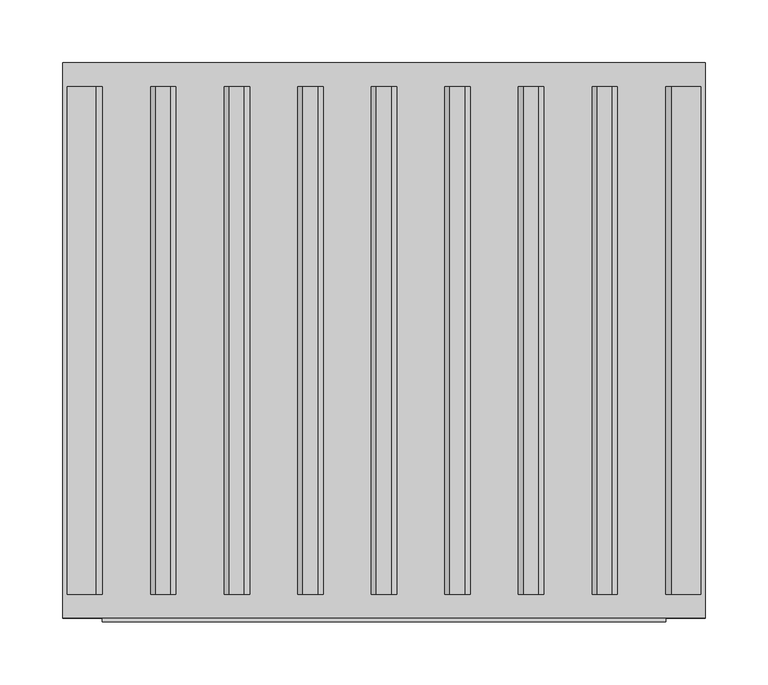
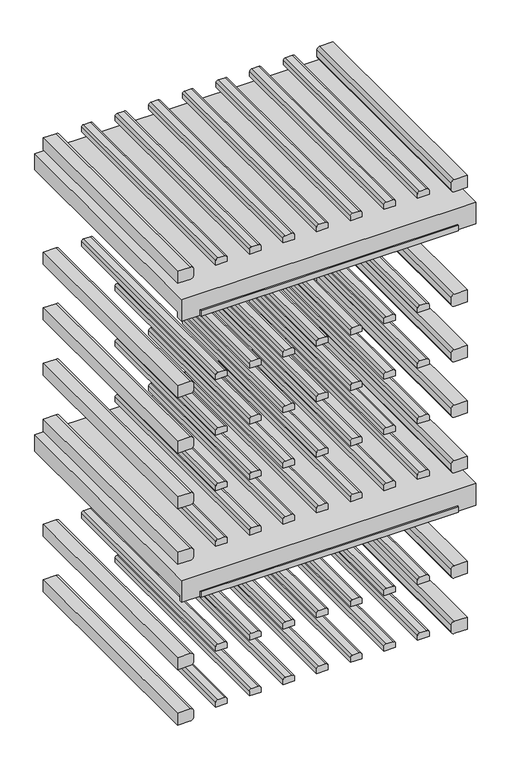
"""IFC4 building model written with IfcOpenShell, lengths in millimetres: proxy geometry, 11503640_USA_KWT2612SF : 36261215_USA_11503640_KWT2612SF."""

from ifc_helpers import new_model, si_unit, point, frame, frame_2d, origin, place, context, project, spatial, polyline, circle_curve, trimmed, segment, composite_curve, outline, extrude, faceted_brep, source, transform, mapped, element, save


def specialty_equipment_2373a430(model_context):
    return source(origin(), model_context, "Body", "SolidModel", [
        extrude(outline(composite_curve([segment(polyline([(782.0, -252.0), (760.0, -252.0), (760.0, -229.0)]), True, "CONTINUOUS"), segment(trimmed(circle_curve(frame_2d((765.0, -229.0)), 5.0), [point((760.0, -229.0))], [point((765.0, -224.0))], False, "CARTESIAN"), True, "CONTINUOUS"), segment(polyline([(765.0, -224.0), (777.0, -224.0)]), True, "CONTINUOUS"), segment(trimmed(circle_curve(frame_2d((777.0, -229.0)), 5.0), [point((777.0, -224.0))], [point((782.0, -229.0))], False, "CARTESIAN"), True, "CONTINUOUS"), segment(polyline([(782.0, -229.0), (782.0, -252.0)]), True, "CONTINUOUS")], self_intersect=False)), frame((0.0, 90.0, 0.0), z_axis=(0.0, 1.0, 0.0), x_axis=(0.0, 0.0, 1.0)), (0.0, 0.0, 1.0), 404.0),
        extrude(outline(composite_curve([segment(polyline([(778.0, -185.5), (770.039218, -185.5), (770.039218, -165.5), (778.0, -165.5)]), True, "CONTINUOUS"), segment(trimmed(circle_curve(frame_2d((778.0, -169.5)), 4.0), [point((778.0, -165.5))], [point((782.0, -169.5))], False, "CARTESIAN"), True, "CONTINUOUS"), segment(polyline([(782.0, -169.5), (782.0, -181.5)]), True, "CONTINUOUS"), segment(trimmed(circle_curve(frame_2d((778.0, -181.5)), 4.0), [point((782.0, -181.5))], [point((778.0, -185.5))], False, "CARTESIAN"), True, "CONTINUOUS")], self_intersect=False)), frame((0.0, 90.0, 0.0), z_axis=(0.0, 1.0, 0.0), x_axis=(0.0, 0.0, 1.0)), (0.0, 0.0, 1.0), 404.0),
        extrude(outline(composite_curve([segment(polyline([(782.0, 252.0), (782.0, 229.0)]), True, "CONTINUOUS"), segment(trimmed(circle_curve(frame_2d((777.0, 229.0)), 5.0), [point((782.0, 229.0))], [point((777.0, 224.0))], False, "CARTESIAN"), True, "CONTINUOUS"), segment(polyline([(777.0, 224.0), (765.0, 224.0)]), True, "CONTINUOUS"), segment(trimmed(circle_curve(frame_2d((765.0, 229.0)), 5.0), [point((765.0, 224.0))], [point((760.0, 229.0))], False, "CARTESIAN"), True, "CONTINUOUS"), segment(polyline([(760.0, 229.0), (760.0, 252.0), (782.0, 252.0)]), True, "CONTINUOUS")], self_intersect=False)), frame((0.0, 90.0, 0.0), z_axis=(0.0, 1.0, 0.0), x_axis=(0.0, 0.0, 1.0)), (0.0, 0.0, 1.0), 404.0),
        extrude(outline(composite_curve([segment(polyline([(778.0, -127.0), (770.039218, -127.0), (770.039218, -107.0), (778.0, -107.0)]), True, "CONTINUOUS"), segment(trimmed(circle_curve(frame_2d((778.0, -111.0)), 4.0), [point((778.0, -107.0))], [point((782.0, -111.0))], False, "CARTESIAN"), True, "CONTINUOUS"), segment(polyline([(782.0, -111.0), (782.0, -123.0)]), True, "CONTINUOUS"), segment(trimmed(circle_curve(frame_2d((778.0, -123.0)), 4.0), [point((782.0, -123.0))], [point((778.0, -127.0))], False, "CARTESIAN"), True, "CONTINUOUS")], self_intersect=False)), frame((0.0, 90.0, 0.0), z_axis=(0.0, 1.0, 0.0), x_axis=(0.0, 0.0, 1.0)), (0.0, 0.0, 1.0), 404.0),
        extrude(outline(composite_curve([segment(polyline([(778.0, -68.5), (770.039218, -68.5), (770.039218, -48.5), (778.0, -48.5)]), True, "CONTINUOUS"), segment(trimmed(circle_curve(frame_2d((778.0, -52.5)), 4.0), [point((778.0, -48.5))], [point((782.0, -52.5))], False, "CARTESIAN"), True, "CONTINUOUS"), segment(polyline([(782.0, -52.5), (782.0, -64.5)]), True, "CONTINUOUS"), segment(trimmed(circle_curve(frame_2d((778.0, -64.5)), 4.0), [point((782.0, -64.5))], [point((778.0, -68.5))], False, "CARTESIAN"), True, "CONTINUOUS")], self_intersect=False)), frame((0.0, 90.0, 0.0), z_axis=(0.0, 1.0, 0.0), x_axis=(0.0, 0.0, 1.0)), (0.0, 0.0, 1.0), 404.0),
        extrude(outline(composite_curve([segment(polyline([(778.0, -10.0), (770.039218, -10.0), (770.039218, 10.0), (778.0, 10.0)]), True, "CONTINUOUS"), segment(trimmed(circle_curve(frame_2d((778.0, 6.0)), 4.0), [point((778.0, 10.0))], [point((782.0, 6.0))], False, "CARTESIAN"), True, "CONTINUOUS"), segment(polyline([(782.0, 6.0), (782.0, -6.0)]), True, "CONTINUOUS"), segment(trimmed(circle_curve(frame_2d((778.0, -6.0)), 4.0), [point((782.0, -6.0))], [point((778.0, -10.0))], False, "CARTESIAN"), True, "CONTINUOUS")], self_intersect=False)), frame((0.0, 90.0, 0.0), z_axis=(0.0, 1.0, 0.0), x_axis=(0.0, 0.0, 1.0)), (0.0, 0.0, 1.0), 404.0),
        extrude(outline(composite_curve([segment(polyline([(778.0, 48.5), (770.039218, 48.5), (770.039218, 68.5), (778.0, 68.5)]), True, "CONTINUOUS"), segment(trimmed(circle_curve(frame_2d((778.0, 64.5)), 4.0), [point((778.0, 68.5))], [point((782.0, 64.5))], False, "CARTESIAN"), True, "CONTINUOUS"), segment(polyline([(782.0, 64.5), (782.0, 52.5)]), True, "CONTINUOUS"), segment(trimmed(circle_curve(frame_2d((778.0, 52.5)), 4.0), [point((782.0, 52.5))], [point((778.0, 48.5))], False, "CARTESIAN"), True, "CONTINUOUS")], self_intersect=False)), frame((0.0, 90.0, 0.0), z_axis=(0.0, 1.0, 0.0), x_axis=(0.0, 0.0, 1.0)), (0.0, 0.0, 1.0), 404.0),
        extrude(outline(composite_curve([segment(polyline([(778.0, 107.0), (770.039218, 107.0), (770.039218, 127.0), (778.0, 127.0)]), True, "CONTINUOUS"), segment(trimmed(circle_curve(frame_2d((778.0, 123.0)), 4.0), [point((778.0, 127.0))], [point((782.0, 123.0))], False, "CARTESIAN"), True, "CONTINUOUS"), segment(polyline([(782.0, 123.0), (782.0, 111.0)]), True, "CONTINUOUS"), segment(trimmed(circle_curve(frame_2d((778.0, 111.0)), 4.0), [point((782.0, 111.0))], [point((778.0, 107.0))], False, "CARTESIAN"), True, "CONTINUOUS")], self_intersect=False)), frame((0.0, 90.0, 0.0), z_axis=(0.0, 1.0, 0.0), x_axis=(0.0, 0.0, 1.0)), (0.0, 0.0, 1.0), 404.0),
        extrude(outline(composite_curve([segment(polyline([(778.0, 165.5), (770.039218, 165.5), (770.039218, 185.5), (778.0, 185.5)]), True, "CONTINUOUS"), segment(trimmed(circle_curve(frame_2d((778.0, 181.5)), 4.0), [point((778.0, 185.5))], [point((782.0, 181.5))], False, "CARTESIAN"), True, "CONTINUOUS"), segment(polyline([(782.0, 181.5), (782.0, 169.5)]), True, "CONTINUOUS"), segment(trimmed(circle_curve(frame_2d((778.0, 169.5)), 4.0), [point((782.0, 169.5))], [point((778.0, 165.5))], False, "CARTESIAN"), True, "CONTINUOUS")], self_intersect=False)), frame((0.0, 90.0, 0.0), z_axis=(0.0, 1.0, 0.0), x_axis=(0.0, 0.0, 1.0)), (0.0, 0.0, 1.0), 404.0),
        extrude(outline(composite_curve([segment(polyline([(884.0, -252.0), (862.0, -252.0), (862.0, -229.0)]), True, "CONTINUOUS"), segment(trimmed(circle_curve(frame_2d((867.0, -229.0)), 5.0), [point((862.0, -229.0))], [point((867.0, -224.0))], False, "CARTESIAN"), True, "CONTINUOUS"), segment(polyline([(867.0, -224.0), (879.0, -224.0)]), True, "CONTINUOUS"), segment(trimmed(circle_curve(frame_2d((879.0, -229.0)), 5.0), [point((879.0, -224.0))], [point((884.0, -229.0))], False, "CARTESIAN"), True, "CONTINUOUS"), segment(polyline([(884.0, -229.0), (884.0, -252.0)]), True, "CONTINUOUS")], self_intersect=False)), frame((0.0, 90.0, 0.0), z_axis=(0.0, 1.0, 0.0), x_axis=(0.0, 0.0, 1.0)), (0.0, 0.0, 1.0), 404.0),
        extrude(outline(composite_curve([segment(polyline([(880.0, -185.5), (872.039218, -185.5), (872.039218, -165.5), (880.0, -165.5)]), True, "CONTINUOUS"), segment(trimmed(circle_curve(frame_2d((880.0, -169.5)), 4.0), [point((880.0, -165.5))], [point((884.0, -169.5))], False, "CARTESIAN"), True, "CONTINUOUS"), segment(polyline([(884.0, -169.5), (884.0, -181.5)]), True, "CONTINUOUS"), segment(trimmed(circle_curve(frame_2d((880.0, -181.5)), 4.0), [point((884.0, -181.5))], [point((880.0, -185.5))], False, "CARTESIAN"), True, "CONTINUOUS")], self_intersect=False)), frame((0.0, 90.0, 0.0), z_axis=(0.0, 1.0, 0.0), x_axis=(0.0, 0.0, 1.0)), (0.0, 0.0, 1.0), 404.0),
        extrude(outline(composite_curve([segment(polyline([(884.0, 252.0), (884.0, 229.0)]), True, "CONTINUOUS"), segment(trimmed(circle_curve(frame_2d((879.0, 229.0)), 5.0), [point((884.0, 229.0))], [point((879.0, 224.0))], False, "CARTESIAN"), True, "CONTINUOUS"), segment(polyline([(879.0, 224.0), (867.0, 224.0)]), True, "CONTINUOUS"), segment(trimmed(circle_curve(frame_2d((867.0, 229.0)), 5.0), [point((867.0, 224.0))], [point((862.0, 229.0))], False, "CARTESIAN"), True, "CONTINUOUS"), segment(polyline([(862.0, 229.0), (862.0, 252.0), (884.0, 252.0)]), True, "CONTINUOUS")], self_intersect=False)), frame((0.0, 90.0, 0.0), z_axis=(0.0, 1.0, 0.0), x_axis=(0.0, 0.0, 1.0)), (0.0, 0.0, 1.0), 404.0),
        extrude(outline(composite_curve([segment(polyline([(880.0, -127.0), (872.039218, -127.0), (872.039218, -107.0), (880.0, -107.0)]), True, "CONTINUOUS"), segment(trimmed(circle_curve(frame_2d((880.0, -111.0)), 4.0), [point((880.0, -107.0))], [point((884.0, -111.0))], False, "CARTESIAN"), True, "CONTINUOUS"), segment(polyline([(884.0, -111.0), (884.0, -123.0)]), True, "CONTINUOUS"), segment(trimmed(circle_curve(frame_2d((880.0, -123.0)), 4.0), [point((884.0, -123.0))], [point((880.0, -127.0))], False, "CARTESIAN"), True, "CONTINUOUS")], self_intersect=False)), frame((0.0, 90.0, 0.0), z_axis=(0.0, 1.0, 0.0), x_axis=(0.0, 0.0, 1.0)), (0.0, 0.0, 1.0), 404.0),
        extrude(outline(composite_curve([segment(polyline([(880.0, -68.5), (872.039218, -68.5), (872.039218, -48.5), (880.0, -48.5)]), True, "CONTINUOUS"), segment(trimmed(circle_curve(frame_2d((880.0, -52.5)), 4.0), [point((880.0, -48.5))], [point((884.0, -52.5))], False, "CARTESIAN"), True, "CONTINUOUS"), segment(polyline([(884.0, -52.5), (884.0, -64.5)]), True, "CONTINUOUS"), segment(trimmed(circle_curve(frame_2d((880.0, -64.5)), 4.0), [point((884.0, -64.5))], [point((880.0, -68.5))], False, "CARTESIAN"), True, "CONTINUOUS")], self_intersect=False)), frame((0.0, 90.0, 0.0), z_axis=(0.0, 1.0, 0.0), x_axis=(0.0, 0.0, 1.0)), (0.0, 0.0, 1.0), 404.0),
        extrude(outline(composite_curve([segment(polyline([(880.0, -10.0), (872.039218, -10.0), (872.039218, 10.0), (880.0, 10.0)]), True, "CONTINUOUS"), segment(trimmed(circle_curve(frame_2d((880.0, 6.0)), 4.0), [point((880.0, 10.0))], [point((884.0, 6.0))], False, "CARTESIAN"), True, "CONTINUOUS"), segment(polyline([(884.0, 6.0), (884.0, -6.0)]), True, "CONTINUOUS"), segment(trimmed(circle_curve(frame_2d((880.0, -6.0)), 4.0), [point((884.0, -6.0))], [point((880.0, -10.0))], False, "CARTESIAN"), True, "CONTINUOUS")], self_intersect=False)), frame((0.0, 90.0, 0.0), z_axis=(0.0, 1.0, 0.0), x_axis=(0.0, 0.0, 1.0)), (0.0, 0.0, 1.0), 404.0),
        extrude(outline(composite_curve([segment(polyline([(880.0, 48.5), (872.039218, 48.5), (872.039218, 68.5), (880.0, 68.5)]), True, "CONTINUOUS"), segment(trimmed(circle_curve(frame_2d((880.0, 64.5)), 4.0), [point((880.0, 68.5))], [point((884.0, 64.5))], False, "CARTESIAN"), True, "CONTINUOUS"), segment(polyline([(884.0, 64.5), (884.0, 52.5)]), True, "CONTINUOUS"), segment(trimmed(circle_curve(frame_2d((880.0, 52.5)), 4.0), [point((884.0, 52.5))], [point((880.0, 48.5))], False, "CARTESIAN"), True, "CONTINUOUS")], self_intersect=False)), frame((0.0, 90.0, 0.0), z_axis=(0.0, 1.0, 0.0), x_axis=(0.0, 0.0, 1.0)), (0.0, 0.0, 1.0), 404.0),
        extrude(outline(composite_curve([segment(polyline([(880.0, 107.0), (872.039218, 107.0), (872.039218, 127.0), (880.0, 127.0)]), True, "CONTINUOUS"), segment(trimmed(circle_curve(frame_2d((880.0, 123.0)), 4.0), [point((880.0, 127.0))], [point((884.0, 123.0))], False, "CARTESIAN"), True, "CONTINUOUS"), segment(polyline([(884.0, 123.0), (884.0, 111.0)]), True, "CONTINUOUS"), segment(trimmed(circle_curve(frame_2d((880.0, 111.0)), 4.0), [point((884.0, 111.0))], [point((880.0, 107.0))], False, "CARTESIAN"), True, "CONTINUOUS")], self_intersect=False)), frame((0.0, 90.0, 0.0), z_axis=(0.0, 1.0, 0.0), x_axis=(0.0, 0.0, 1.0)), (0.0, 0.0, 1.0), 404.0),
        extrude(outline(composite_curve([segment(polyline([(880.0, 165.5), (872.039218, 165.5), (872.039218, 185.5), (880.0, 185.5)]), True, "CONTINUOUS"), segment(trimmed(circle_curve(frame_2d((880.0, 181.5)), 4.0), [point((880.0, 185.5))], [point((884.0, 181.5))], False, "CARTESIAN"), True, "CONTINUOUS"), segment(polyline([(884.0, 181.5), (884.0, 169.5)]), True, "CONTINUOUS"), segment(trimmed(circle_curve(frame_2d((880.0, 169.5)), 4.0), [point((884.0, 169.5))], [point((880.0, 165.5))], False, "CARTESIAN"), True, "CONTINUOUS")], self_intersect=False)), frame((0.0, 90.0, 0.0), z_axis=(0.0, 1.0, 0.0), x_axis=(0.0, 0.0, 1.0)), (0.0, 0.0, 1.0), 404.0),
        extrude(outline(composite_curve([segment(polyline([(1077.0009591, -252.0), (1055.0, -252.0), (1055.0, -229.0)]), True, "CONTINUOUS"), segment(trimmed(circle_curve(frame_2d((1060.0, -229.0)), 5.0), [point((1055.0, -229.0))], [point((1060.0, -224.0))], False, "CARTESIAN"), True, "CONTINUOUS"), segment(polyline([(1060.0, -224.0), (1072.0009591, -224.0)]), True, "CONTINUOUS"), segment(trimmed(circle_curve(frame_2d((1072.0009591, -229.0)), 5.0), [point((1072.0009591, -224.0))], [point((1077.0009591, -229.0))], False, "CARTESIAN"), True, "CONTINUOUS"), segment(polyline([(1077.0009591, -229.0), (1077.0009591, -252.0)]), True, "CONTINUOUS")], self_intersect=False)), frame((0.0, 90.0, 0.0), z_axis=(0.0, 1.0, 0.0), x_axis=(0.0, 0.0, 1.0)), (0.0, 0.0, 1.0), 404.0),
        extrude(outline(composite_curve([segment(polyline([(1073.0009591, -185.5), (1065.039218, -185.5), (1065.039218, -165.5), (1073.0009591, -165.5)]), True, "CONTINUOUS"), segment(trimmed(circle_curve(frame_2d((1073.0009591, -169.5)), 4.0), [point((1073.0009591, -165.5))], [point((1077.0009591, -169.5))], False, "CARTESIAN"), True, "CONTINUOUS"), segment(polyline([(1077.0009591, -169.5), (1077.0009591, -181.5)]), True, "CONTINUOUS"), segment(trimmed(circle_curve(frame_2d((1073.0009591, -181.5)), 4.0), [point((1077.0009591, -181.5))], [point((1073.0009591, -185.5))], False, "CARTESIAN"), True, "CONTINUOUS")], self_intersect=False)), frame((0.0, 90.0, 0.0), z_axis=(0.0, 1.0, 0.0), x_axis=(0.0, 0.0, 1.0)), (0.0, 0.0, 1.0), 404.0),
        extrude(outline(composite_curve([segment(polyline([(1077.0009591, 252.0), (1077.0009591, 229.0)]), True, "CONTINUOUS"), segment(trimmed(circle_curve(frame_2d((1072.0009591, 229.0)), 5.0), [point((1077.0009591, 229.0))], [point((1072.0009591, 224.0))], False, "CARTESIAN"), True, "CONTINUOUS"), segment(polyline([(1072.0009591, 224.0), (1060.0, 224.0)]), True, "CONTINUOUS"), segment(trimmed(circle_curve(frame_2d((1060.0, 229.0)), 5.0), [point((1060.0, 224.0))], [point((1055.0, 229.0))], False, "CARTESIAN"), True, "CONTINUOUS"), segment(polyline([(1055.0, 229.0), (1055.0, 252.0), (1077.0009591, 252.0)]), True, "CONTINUOUS")], self_intersect=False)), frame((0.0, 90.0, 0.0), z_axis=(0.0, 1.0, 0.0), x_axis=(0.0, 0.0, 1.0)), (0.0, 0.0, 1.0), 404.0),
        extrude(outline(composite_curve([segment(polyline([(1073.0009591, -127.0), (1065.039218, -127.0), (1065.039218, -107.0), (1073.0009591, -107.0)]), True, "CONTINUOUS"), segment(trimmed(circle_curve(frame_2d((1073.0009591, -111.0)), 4.0), [point((1073.0009591, -107.0))], [point((1077.0009591, -111.0))], False, "CARTESIAN"), True, "CONTINUOUS"), segment(polyline([(1077.0009591, -111.0), (1077.0009591, -123.0)]), True, "CONTINUOUS"), segment(trimmed(circle_curve(frame_2d((1073.0009591, -123.0)), 4.0), [point((1077.0009591, -123.0))], [point((1073.0009591, -127.0))], False, "CARTESIAN"), True, "CONTINUOUS")], self_intersect=False)), frame((0.0, 90.0, 0.0), z_axis=(0.0, 1.0, 0.0), x_axis=(0.0, 0.0, 1.0)), (0.0, 0.0, 1.0), 404.0),
        extrude(outline(composite_curve([segment(polyline([(1073.0009591, -68.5), (1065.039218, -68.5), (1065.039218, -48.5), (1073.0009591, -48.5)]), True, "CONTINUOUS"), segment(trimmed(circle_curve(frame_2d((1073.0009591, -52.5)), 4.0), [point((1073.0009591, -48.5))], [point((1077.0009591, -52.5))], False, "CARTESIAN"), True, "CONTINUOUS"), segment(polyline([(1077.0009591, -52.5), (1077.0009591, -64.5)]), True, "CONTINUOUS"), segment(trimmed(circle_curve(frame_2d((1073.0009591, -64.5)), 4.0), [point((1077.0009591, -64.5))], [point((1073.0009591, -68.5))], False, "CARTESIAN"), True, "CONTINUOUS")], self_intersect=False)), frame((0.0, 90.0, 0.0), z_axis=(0.0, 1.0, 0.0), x_axis=(0.0, 0.0, 1.0)), (0.0, 0.0, 1.0), 404.0),
        extrude(outline(composite_curve([segment(polyline([(1073.0009591, -10.0), (1065.039218, -10.0), (1065.039218, 10.0), (1073.0009591, 10.0)]), True, "CONTINUOUS"), segment(trimmed(circle_curve(frame_2d((1073.0009591, 6.0)), 4.0), [point((1073.0009591, 10.0))], [point((1077.0009591, 6.0))], False, "CARTESIAN"), True, "CONTINUOUS"), segment(polyline([(1077.0009591, 6.0), (1077.0009591, -6.0)]), True, "CONTINUOUS"), segment(trimmed(circle_curve(frame_2d((1073.0009591, -6.0)), 4.0), [point((1077.0009591, -6.0))], [point((1073.0009591, -10.0))], False, "CARTESIAN"), True, "CONTINUOUS")], self_intersect=False)), frame((0.0, 90.0, 0.0), z_axis=(0.0, 1.0, 0.0), x_axis=(0.0, 0.0, 1.0)), (0.0, 0.0, 1.0), 404.0),
        extrude(outline(composite_curve([segment(polyline([(1073.0009591, 48.5), (1065.039218, 48.5), (1065.039218, 68.5), (1073.0009591, 68.5)]), True, "CONTINUOUS"), segment(trimmed(circle_curve(frame_2d((1073.0009591, 64.5)), 4.0), [point((1073.0009591, 68.5))], [point((1077.0009591, 64.5))], False, "CARTESIAN"), True, "CONTINUOUS"), segment(polyline([(1077.0009591, 64.5), (1077.0009591, 52.5)]), True, "CONTINUOUS"), segment(trimmed(circle_curve(frame_2d((1073.0009591, 52.5)), 4.0), [point((1077.0009591, 52.5))], [point((1073.0009591, 48.5))], False, "CARTESIAN"), True, "CONTINUOUS")], self_intersect=False)), frame((0.0, 90.0, 0.0), z_axis=(0.0, 1.0, 0.0), x_axis=(0.0, 0.0, 1.0)), (0.0, 0.0, 1.0), 404.0),
        extrude(outline(composite_curve([segment(polyline([(1073.0009591, 107.0), (1065.039218, 107.0), (1065.039218, 127.0), (1073.0009591, 127.0)]), True, "CONTINUOUS"), segment(trimmed(circle_curve(frame_2d((1073.0009591, 123.0)), 4.0), [point((1073.0009591, 127.0))], [point((1077.0009591, 123.0))], False, "CARTESIAN"), True, "CONTINUOUS"), segment(polyline([(1077.0009591, 123.0), (1077.0009591, 111.0)]), True, "CONTINUOUS"), segment(trimmed(circle_curve(frame_2d((1073.0009591, 111.0)), 4.0), [point((1077.0009591, 111.0))], [point((1073.0009591, 107.0))], False, "CARTESIAN"), True, "CONTINUOUS")], self_intersect=False)), frame((0.0, 90.0, 0.0), z_axis=(0.0, 1.0, 0.0), x_axis=(0.0, 0.0, 1.0)), (0.0, 0.0, 1.0), 404.0),
        extrude(outline(composite_curve([segment(polyline([(1073.0009591, 165.5), (1065.039218, 165.5), (1065.039218, 185.5), (1073.0009591, 185.5)]), True, "CONTINUOUS"), segment(trimmed(circle_curve(frame_2d((1073.0009591, 181.5)), 4.0), [point((1073.0009591, 185.5))], [point((1077.0009591, 181.5))], False, "CARTESIAN"), True, "CONTINUOUS"), segment(polyline([(1077.0009591, 181.5), (1077.0009591, 169.5)]), True, "CONTINUOUS"), segment(trimmed(circle_curve(frame_2d((1073.0009591, 169.5)), 4.0), [point((1077.0009591, 169.5))], [point((1073.0009591, 165.5))], False, "CARTESIAN"), True, "CONTINUOUS")], self_intersect=False)), frame((0.0, 90.0, 0.0), z_axis=(0.0, 1.0, 0.0), x_axis=(0.0, 0.0, 1.0)), (0.0, 0.0, 1.0), 404.0),
        extrude(outline(composite_curve([segment(polyline([(1179.0, -252.0), (1157.0, -252.0), (1157.0, -229.0)]), True, "CONTINUOUS"), segment(trimmed(circle_curve(frame_2d((1162.0, -229.0)), 5.0), [point((1157.0, -229.0))], [point((1162.0, -224.0))], False, "CARTESIAN"), True, "CONTINUOUS"), segment(polyline([(1162.0, -224.0), (1174.0, -224.0)]), True, "CONTINUOUS"), segment(trimmed(circle_curve(frame_2d((1174.0, -229.0)), 5.0), [point((1174.0, -224.0))], [point((1179.0, -229.0))], False, "CARTESIAN"), True, "CONTINUOUS"), segment(polyline([(1179.0, -229.0), (1179.0, -252.0)]), True, "CONTINUOUS")], self_intersect=False)), frame((0.0, 90.0, 0.0), z_axis=(0.0, 1.0, 0.0), x_axis=(0.0, 0.0, 1.0)), (0.0, 0.0, 1.0), 404.0),
        extrude(outline(composite_curve([segment(polyline([(1175.0, -185.5), (1167.039218, -185.5), (1167.039218, -165.5), (1175.0, -165.5)]), True, "CONTINUOUS"), segment(trimmed(circle_curve(frame_2d((1175.0, -169.5)), 4.0), [point((1175.0, -165.5))], [point((1179.0, -169.5))], False, "CARTESIAN"), True, "CONTINUOUS"), segment(polyline([(1179.0, -169.5), (1179.0, -181.5)]), True, "CONTINUOUS"), segment(trimmed(circle_curve(frame_2d((1175.0, -181.5)), 4.0), [point((1179.0, -181.5))], [point((1175.0, -185.5))], False, "CARTESIAN"), True, "CONTINUOUS")], self_intersect=False)), frame((0.0, 90.0, 0.0), z_axis=(0.0, 1.0, 0.0), x_axis=(0.0, 0.0, 1.0)), (0.0, 0.0, 1.0), 404.0),
        extrude(outline(composite_curve([segment(polyline([(1179.0, 252.0), (1179.0, 229.0)]), True, "CONTINUOUS"), segment(trimmed(circle_curve(frame_2d((1174.0, 229.0)), 5.0), [point((1179.0, 229.0))], [point((1174.0, 224.0))], False, "CARTESIAN"), True, "CONTINUOUS"), segment(polyline([(1174.0, 224.0), (1162.0, 224.0)]), True, "CONTINUOUS"), segment(trimmed(circle_curve(frame_2d((1162.0, 229.0)), 5.0), [point((1162.0, 224.0))], [point((1157.0, 229.0))], False, "CARTESIAN"), True, "CONTINUOUS"), segment(polyline([(1157.0, 229.0), (1157.0, 252.0), (1179.0, 252.0)]), True, "CONTINUOUS")], self_intersect=False)), frame((0.0, 90.0, 0.0), z_axis=(0.0, 1.0, 0.0), x_axis=(0.0, 0.0, 1.0)), (0.0, 0.0, 1.0), 404.0),
        extrude(outline(composite_curve([segment(polyline([(1175.0, -127.0), (1167.039218, -127.0), (1167.039218, -107.0), (1175.0, -107.0)]), True, "CONTINUOUS"), segment(trimmed(circle_curve(frame_2d((1175.0, -111.0)), 4.0), [point((1175.0, -107.0))], [point((1179.0, -111.0))], False, "CARTESIAN"), True, "CONTINUOUS"), segment(polyline([(1179.0, -111.0), (1179.0, -123.0)]), True, "CONTINUOUS"), segment(trimmed(circle_curve(frame_2d((1175.0, -123.0)), 4.0), [point((1179.0, -123.0))], [point((1175.0, -127.0))], False, "CARTESIAN"), True, "CONTINUOUS")], self_intersect=False)), frame((0.0, 90.0, 0.0), z_axis=(0.0, 1.0, 0.0), x_axis=(0.0, 0.0, 1.0)), (0.0, 0.0, 1.0), 404.0),
        extrude(outline(composite_curve([segment(polyline([(1175.0, -68.5), (1167.039218, -68.5), (1167.039218, -48.5), (1175.0, -48.5)]), True, "CONTINUOUS"), segment(trimmed(circle_curve(frame_2d((1175.0, -52.5)), 4.0), [point((1175.0, -48.5))], [point((1179.0, -52.5))], False, "CARTESIAN"), True, "CONTINUOUS"), segment(polyline([(1179.0, -52.5), (1179.0, -64.5)]), True, "CONTINUOUS"), segment(trimmed(circle_curve(frame_2d((1175.0, -64.5)), 4.0), [point((1179.0, -64.5))], [point((1175.0, -68.5))], False, "CARTESIAN"), True, "CONTINUOUS")], self_intersect=False)), frame((0.0, 90.0, 0.0), z_axis=(0.0, 1.0, 0.0), x_axis=(0.0, 0.0, 1.0)), (0.0, 0.0, 1.0), 404.0),
        extrude(outline(composite_curve([segment(polyline([(1175.0, -10.0), (1167.039218, -10.0), (1167.039218, 10.0), (1175.0, 10.0)]), True, "CONTINUOUS"), segment(trimmed(circle_curve(frame_2d((1175.0, 6.0)), 4.0), [point((1175.0, 10.0))], [point((1179.0, 6.0))], False, "CARTESIAN"), True, "CONTINUOUS"), segment(polyline([(1179.0, 6.0), (1179.0, -6.0)]), True, "CONTINUOUS"), segment(trimmed(circle_curve(frame_2d((1175.0, -6.0)), 4.0), [point((1179.0, -6.0))], [point((1175.0, -10.0))], False, "CARTESIAN"), True, "CONTINUOUS")], self_intersect=False)), frame((0.0, 90.0, 0.0), z_axis=(0.0, 1.0, 0.0), x_axis=(0.0, 0.0, 1.0)), (0.0, 0.0, 1.0), 404.0),
        extrude(outline(composite_curve([segment(polyline([(1175.0, 48.5), (1167.039218, 48.5), (1167.039218, 68.5), (1175.0, 68.5)]), True, "CONTINUOUS"), segment(trimmed(circle_curve(frame_2d((1175.0, 64.5)), 4.0), [point((1175.0, 68.5))], [point((1179.0, 64.5))], False, "CARTESIAN"), True, "CONTINUOUS"), segment(polyline([(1179.0, 64.5), (1179.0, 52.5)]), True, "CONTINUOUS"), segment(trimmed(circle_curve(frame_2d((1175.0, 52.5)), 4.0), [point((1179.0, 52.5))], [point((1175.0, 48.5))], False, "CARTESIAN"), True, "CONTINUOUS")], self_intersect=False)), frame((0.0, 90.0, 0.0), z_axis=(0.0, 1.0, 0.0), x_axis=(0.0, 0.0, 1.0)), (0.0, 0.0, 1.0), 404.0),
        extrude(outline(composite_curve([segment(polyline([(1175.0, 107.0), (1167.039218, 107.0), (1167.039218, 127.0), (1175.0, 127.0)]), True, "CONTINUOUS"), segment(trimmed(circle_curve(frame_2d((1175.0, 123.0)), 4.0), [point((1175.0, 127.0))], [point((1179.0, 123.0))], False, "CARTESIAN"), True, "CONTINUOUS"), segment(polyline([(1179.0, 123.0), (1179.0, 111.0)]), True, "CONTINUOUS"), segment(trimmed(circle_curve(frame_2d((1175.0, 111.0)), 4.0), [point((1179.0, 111.0))], [point((1175.0, 107.0))], False, "CARTESIAN"), True, "CONTINUOUS")], self_intersect=False)), frame((0.0, 90.0, 0.0), z_axis=(0.0, 1.0, 0.0), x_axis=(0.0, 0.0, 1.0)), (0.0, 0.0, 1.0), 404.0),
        extrude(outline(composite_curve([segment(polyline([(1175.0, 165.5), (1167.039218, 165.5), (1167.039218, 185.5), (1175.0, 185.5)]), True, "CONTINUOUS"), segment(trimmed(circle_curve(frame_2d((1175.0, 181.5)), 4.0), [point((1175.0, 185.5))], [point((1179.0, 181.5))], False, "CARTESIAN"), True, "CONTINUOUS"), segment(polyline([(1179.0, 181.5), (1179.0, 169.5)]), True, "CONTINUOUS"), segment(trimmed(circle_curve(frame_2d((1175.0, 169.5)), 4.0), [point((1179.0, 169.5))], [point((1175.0, 165.5))], False, "CARTESIAN"), True, "CONTINUOUS")], self_intersect=False)), frame((0.0, 90.0, 0.0), z_axis=(0.0, 1.0, 0.0), x_axis=(0.0, 0.0, 1.0)), (0.0, 0.0, 1.0), 404.0),
        extrude(outline(composite_curve([segment(polyline([(1281.0, -252.0), (1259.0, -252.0), (1259.0, -229.0)]), True, "CONTINUOUS"), segment(trimmed(circle_curve(frame_2d((1264.0, -229.0)), 5.0), [point((1259.0, -229.0))], [point((1264.0, -224.0))], False, "CARTESIAN"), True, "CONTINUOUS"), segment(polyline([(1264.0, -224.0), (1276.0, -224.0)]), True, "CONTINUOUS"), segment(trimmed(circle_curve(frame_2d((1276.0, -229.0)), 5.0), [point((1276.0, -224.0))], [point((1281.0, -229.0))], False, "CARTESIAN"), True, "CONTINUOUS"), segment(polyline([(1281.0, -229.0), (1281.0, -252.0)]), True, "CONTINUOUS")], self_intersect=False)), frame((0.0, 90.0, 0.0), z_axis=(0.0, 1.0, 0.0), x_axis=(0.0, 0.0, 1.0)), (0.0, 0.0, 1.0), 404.0),
        extrude(outline(composite_curve([segment(polyline([(1277.0, -185.5), (1269.039218, -185.5), (1269.039218, -165.5), (1277.0, -165.5)]), True, "CONTINUOUS"), segment(trimmed(circle_curve(frame_2d((1277.0, -169.5)), 4.0), [point((1277.0, -165.5))], [point((1281.0, -169.5))], False, "CARTESIAN"), True, "CONTINUOUS"), segment(polyline([(1281.0, -169.5), (1281.0, -181.5)]), True, "CONTINUOUS"), segment(trimmed(circle_curve(frame_2d((1277.0, -181.5)), 4.0), [point((1281.0, -181.5))], [point((1277.0, -185.5))], False, "CARTESIAN"), True, "CONTINUOUS")], self_intersect=False)), frame((0.0, 90.0, 0.0), z_axis=(0.0, 1.0, 0.0), x_axis=(0.0, 0.0, 1.0)), (0.0, 0.0, 1.0), 404.0),
        extrude(outline(composite_curve([segment(polyline([(1281.0, 252.0), (1281.0, 229.0)]), True, "CONTINUOUS"), segment(trimmed(circle_curve(frame_2d((1276.0, 229.0)), 5.0), [point((1281.0, 229.0))], [point((1276.0, 224.0))], False, "CARTESIAN"), True, "CONTINUOUS"), segment(polyline([(1276.0, 224.0), (1264.0, 224.0)]), True, "CONTINUOUS"), segment(trimmed(circle_curve(frame_2d((1264.0, 229.0)), 5.0), [point((1264.0, 224.0))], [point((1259.0, 229.0))], False, "CARTESIAN"), True, "CONTINUOUS"), segment(polyline([(1259.0, 229.0), (1259.0, 252.0), (1281.0, 252.0)]), True, "CONTINUOUS")], self_intersect=False)), frame((0.0, 90.0, 0.0), z_axis=(0.0, 1.0, 0.0), x_axis=(0.0, 0.0, 1.0)), (0.0, 0.0, 1.0), 404.0),
        extrude(outline(composite_curve([segment(polyline([(1277.0, -127.0), (1269.039218, -127.0), (1269.039218, -107.0), (1277.0, -107.0)]), True, "CONTINUOUS"), segment(trimmed(circle_curve(frame_2d((1277.0, -111.0)), 4.0), [point((1277.0, -107.0))], [point((1281.0, -111.0))], False, "CARTESIAN"), True, "CONTINUOUS"), segment(polyline([(1281.0, -111.0), (1281.0, -123.0)]), True, "CONTINUOUS"), segment(trimmed(circle_curve(frame_2d((1277.0, -123.0)), 4.0), [point((1281.0, -123.0))], [point((1277.0, -127.0))], False, "CARTESIAN"), True, "CONTINUOUS")], self_intersect=False)), frame((0.0, 90.0, 0.0), z_axis=(0.0, 1.0, 0.0), x_axis=(0.0, 0.0, 1.0)), (0.0, 0.0, 1.0), 404.0),
        extrude(outline(composite_curve([segment(polyline([(1277.0, -68.5), (1269.039218, -68.5), (1269.039218, -48.5), (1277.0, -48.5)]), True, "CONTINUOUS"), segment(trimmed(circle_curve(frame_2d((1277.0, -52.5)), 4.0), [point((1277.0, -48.5))], [point((1281.0, -52.5))], False, "CARTESIAN"), True, "CONTINUOUS"), segment(polyline([(1281.0, -52.5), (1281.0, -64.5)]), True, "CONTINUOUS"), segment(trimmed(circle_curve(frame_2d((1277.0, -64.5)), 4.0), [point((1281.0, -64.5))], [point((1277.0, -68.5))], False, "CARTESIAN"), True, "CONTINUOUS")], self_intersect=False)), frame((0.0, 90.0, 0.0), z_axis=(0.0, 1.0, 0.0), x_axis=(0.0, 0.0, 1.0)), (0.0, 0.0, 1.0), 404.0),
        extrude(outline(composite_curve([segment(polyline([(1277.0, -10.0), (1269.039218, -10.0), (1269.039218, 10.0), (1277.0, 10.0)]), True, "CONTINUOUS"), segment(trimmed(circle_curve(frame_2d((1277.0, 6.0)), 4.0), [point((1277.0, 10.0))], [point((1281.0, 6.0))], False, "CARTESIAN"), True, "CONTINUOUS"), segment(polyline([(1281.0, 6.0), (1281.0, -6.0)]), True, "CONTINUOUS"), segment(trimmed(circle_curve(frame_2d((1277.0, -6.0)), 4.0), [point((1281.0, -6.0))], [point((1277.0, -10.0))], False, "CARTESIAN"), True, "CONTINUOUS")], self_intersect=False)), frame((0.0, 90.0, 0.0), z_axis=(0.0, 1.0, 0.0), x_axis=(0.0, 0.0, 1.0)), (0.0, 0.0, 1.0), 404.0),
        extrude(outline(composite_curve([segment(polyline([(1277.0, 48.5), (1269.039218, 48.5), (1269.039218, 68.5), (1277.0, 68.5)]), True, "CONTINUOUS"), segment(trimmed(circle_curve(frame_2d((1277.0, 64.5)), 4.0), [point((1277.0, 68.5))], [point((1281.0, 64.5))], False, "CARTESIAN"), True, "CONTINUOUS"), segment(polyline([(1281.0, 64.5), (1281.0, 52.5)]), True, "CONTINUOUS"), segment(trimmed(circle_curve(frame_2d((1277.0, 52.5)), 4.0), [point((1281.0, 52.5))], [point((1277.0, 48.5))], False, "CARTESIAN"), True, "CONTINUOUS")], self_intersect=False)), frame((0.0, 90.0, 0.0), z_axis=(0.0, 1.0, 0.0), x_axis=(0.0, 0.0, 1.0)), (0.0, 0.0, 1.0), 404.0),
        extrude(outline(composite_curve([segment(polyline([(1277.0, 107.0), (1269.039218, 107.0), (1269.039218, 127.0), (1277.0, 127.0)]), True, "CONTINUOUS"), segment(trimmed(circle_curve(frame_2d((1277.0, 123.0)), 4.0), [point((1277.0, 127.0))], [point((1281.0, 123.0))], False, "CARTESIAN"), True, "CONTINUOUS"), segment(polyline([(1281.0, 123.0), (1281.0, 111.0)]), True, "CONTINUOUS"), segment(trimmed(circle_curve(frame_2d((1277.0, 111.0)), 4.0), [point((1281.0, 111.0))], [point((1277.0, 107.0))], False, "CARTESIAN"), True, "CONTINUOUS")], self_intersect=False)), frame((0.0, 90.0, 0.0), z_axis=(0.0, 1.0, 0.0), x_axis=(0.0, 0.0, 1.0)), (0.0, 0.0, 1.0), 404.0),
        extrude(outline(composite_curve([segment(polyline([(1277.0, 165.5), (1269.039218, 165.5), (1269.039218, 185.5), (1277.0, 185.5)]), True, "CONTINUOUS"), segment(trimmed(circle_curve(frame_2d((1277.0, 181.5)), 4.0), [point((1277.0, 185.5))], [point((1281.0, 181.5))], False, "CARTESIAN"), True, "CONTINUOUS"), segment(polyline([(1281.0, 181.5), (1281.0, 169.5)]), True, "CONTINUOUS"), segment(trimmed(circle_curve(frame_2d((1277.0, 169.5)), 4.0), [point((1281.0, 169.5))], [point((1277.0, 165.5))], False, "CARTESIAN"), True, "CONTINUOUS")], self_intersect=False)), frame((0.0, 90.0, 0.0), z_axis=(0.0, 1.0, 0.0), x_axis=(0.0, 0.0, 1.0)), (0.0, 0.0, 1.0), 404.0),
        extrude(outline(composite_curve([segment(polyline([(1383.0, -252.0), (1361.0, -252.0), (1361.0, -229.0)]), True, "CONTINUOUS"), segment(trimmed(circle_curve(frame_2d((1366.0, -229.0)), 5.0), [point((1361.0, -229.0))], [point((1366.0, -224.0))], False, "CARTESIAN"), True, "CONTINUOUS"), segment(polyline([(1366.0, -224.0), (1378.0156872, -224.0)]), True, "CONTINUOUS"), segment(trimmed(circle_curve(frame_2d((1378.0156872, -228.9843128)), 4.9843128), [point((1378.0156872, -224.0))], [point((1383.0, -228.9843128))], False, "CARTESIAN"), True, "CONTINUOUS"), segment(polyline([(1383.0, -228.9843128), (1383.0, -252.0)]), True, "CONTINUOUS")], self_intersect=False)), frame((0.0, 90.0, 0.0), z_axis=(0.0, 1.0, 0.0), x_axis=(0.0, 0.0, 1.0)), (0.0, 0.0, 1.0), 404.0),
        extrude(outline(composite_curve([segment(polyline([(1379.0156872, -185.5), (1371.039218, -185.5), (1371.039218, -165.5), (1379.0156872, -165.5)]), True, "CONTINUOUS"), segment(trimmed(circle_curve(frame_2d((1379.0156872, -169.4843128)), 3.9843128), [point((1379.0156872, -165.5))], [point((1383.0, -169.4843128))], False, "CARTESIAN"), True, "CONTINUOUS"), segment(polyline([(1383.0, -169.4843128), (1383.0, -181.5156872)]), True, "CONTINUOUS"), segment(trimmed(circle_curve(frame_2d((1379.0156872, -181.5156872)), 3.9843128), [point((1383.0, -181.5156872))], [point((1379.0156872, -185.5))], False, "CARTESIAN"), True, "CONTINUOUS")], self_intersect=False)), frame((0.0, 90.0, 0.0), z_axis=(0.0, 1.0, 0.0), x_axis=(0.0, 0.0, 1.0)), (0.0, 0.0, 1.0), 404.0),
        extrude(outline(composite_curve([segment(polyline([(1383.0, 252.0), (1383.0, 228.9903675)]), True, "CONTINUOUS"), segment(trimmed(circle_curve(frame_2d((1378.0197237, 228.9903675)), 4.9802763), [point((1383.0, 228.9903675))], [point((1378.0197237, 224.0100912))], False, "CARTESIAN"), True, "CONTINUOUS"), segment(polyline([(1378.0197237, 224.0100912), (1365.9981652, 224.0100912)]), True, "CONTINUOUS"), segment(trimmed(circle_curve(frame_2d((1365.9981652, 229.0045869)), 4.9944957), [point((1365.9981652, 224.0100912))], [point((1361.0036695, 229.0045869))], False, "CARTESIAN"), True, "CONTINUOUS"), segment(polyline([(1361.0036695, 229.0045869), (1361.0036695, 252.0), (1383.0, 252.0)]), True, "CONTINUOUS")], self_intersect=False)), frame((0.0, 90.0, 0.0), z_axis=(0.0, 1.0, 0.0), x_axis=(0.0, 0.0, 1.0)), (0.0, 0.0, 1.0), 404.0),
        extrude(outline(composite_curve([segment(polyline([(1379.039218, -127.0), (1371.039218, -127.0), (1371.039218, -107.0), (1379.039218, -107.0)]), True, "CONTINUOUS"), segment(trimmed(circle_curve(frame_2d((1379.039218, -111.0)), 4.0), [point((1379.039218, -107.0))], [point((1383.039218, -111.0))], False, "CARTESIAN"), True, "CONTINUOUS"), segment(polyline([(1383.039218, -111.0), (1383.039218, -123.0)]), True, "CONTINUOUS"), segment(trimmed(circle_curve(frame_2d((1379.039218, -123.0)), 4.0), [point((1383.039218, -123.0))], [point((1379.039218, -127.0))], False, "CARTESIAN"), True, "CONTINUOUS")], self_intersect=False)), frame((0.0, 90.0, 0.0), z_axis=(0.0, 1.0, 0.0), x_axis=(0.0, 0.0, 1.0)), (0.0, 0.0, 1.0), 404.0),
        extrude(outline(composite_curve([segment(polyline([(1379.039218, -68.5), (1371.039218, -68.5), (1371.039218, -48.5), (1379.039218, -48.5)]), True, "CONTINUOUS"), segment(trimmed(circle_curve(frame_2d((1379.039218, -52.5)), 4.0), [point((1379.039218, -48.5))], [point((1383.039218, -52.5))], False, "CARTESIAN"), True, "CONTINUOUS"), segment(polyline([(1383.039218, -52.5), (1383.039218, -64.5)]), True, "CONTINUOUS"), segment(trimmed(circle_curve(frame_2d((1379.039218, -64.5)), 4.0), [point((1383.039218, -64.5))], [point((1379.039218, -68.5))], False, "CARTESIAN"), True, "CONTINUOUS")], self_intersect=False)), frame((0.0, 90.0, 0.0), z_axis=(0.0, 1.0, 0.0), x_axis=(0.0, 0.0, 1.0)), (0.0, 0.0, 1.0), 404.0),
        extrude(outline(composite_curve([segment(polyline([(1379.039218, -10.0), (1371.039218, -10.0), (1371.039218, 10.0), (1379.039218, 10.0)]), True, "CONTINUOUS"), segment(trimmed(circle_curve(frame_2d((1379.039218, 6.0)), 4.0), [point((1379.039218, 10.0))], [point((1383.039218, 6.0))], False, "CARTESIAN"), True, "CONTINUOUS"), segment(polyline([(1383.039218, 6.0), (1383.039218, -6.0)]), True, "CONTINUOUS"), segment(trimmed(circle_curve(frame_2d((1379.039218, -6.0)), 4.0), [point((1383.039218, -6.0))], [point((1379.039218, -10.0))], False, "CARTESIAN"), True, "CONTINUOUS")], self_intersect=False)), frame((0.0, 90.0, 0.0), z_axis=(0.0, 1.0, 0.0), x_axis=(0.0, 0.0, 1.0)), (0.0, 0.0, 1.0), 404.0),
        extrude(outline(composite_curve([segment(polyline([(1379.039218, 48.5), (1371.039218, 48.5), (1371.039218, 68.5), (1379.039218, 68.5)]), True, "CONTINUOUS"), segment(trimmed(circle_curve(frame_2d((1379.039218, 64.5)), 4.0), [point((1379.039218, 68.5))], [point((1383.039218, 64.5))], False, "CARTESIAN"), True, "CONTINUOUS"), segment(polyline([(1383.039218, 64.5), (1383.039218, 52.5)]), True, "CONTINUOUS"), segment(trimmed(circle_curve(frame_2d((1379.039218, 52.5)), 4.0), [point((1383.039218, 52.5))], [point((1379.039218, 48.5))], False, "CARTESIAN"), True, "CONTINUOUS")], self_intersect=False)), frame((0.0, 90.0, 0.0), z_axis=(0.0, 1.0, 0.0), x_axis=(0.0, 0.0, 1.0)), (0.0, 0.0, 1.0), 404.0),
        extrude(outline(composite_curve([segment(polyline([(1379.039218, 107.0), (1371.039218, 107.0), (1371.039218, 127.0), (1379.039218, 127.0)]), True, "CONTINUOUS"), segment(trimmed(circle_curve(frame_2d((1379.039218, 123.0)), 4.0), [point((1379.039218, 127.0))], [point((1383.039218, 123.0))], False, "CARTESIAN"), True, "CONTINUOUS"), segment(polyline([(1383.039218, 123.0), (1383.039218, 111.0)]), True, "CONTINUOUS"), segment(trimmed(circle_curve(frame_2d((1379.039218, 111.0)), 4.0), [point((1383.039218, 111.0))], [point((1379.039218, 107.0))], False, "CARTESIAN"), True, "CONTINUOUS")], self_intersect=False)), frame((0.0, 90.0, 0.0), z_axis=(0.0, 1.0, 0.0), x_axis=(0.0, 0.0, 1.0)), (0.0, 0.0, 1.0), 404.0),
        extrude(outline(composite_curve([segment(polyline([(1379.039218, 165.5), (1371.039218, 165.5), (1371.039218, 185.5), (1379.039218, 185.5)]), True, "CONTINUOUS"), segment(trimmed(circle_curve(frame_2d((1379.039218, 181.5)), 4.0), [point((1379.039218, 185.5))], [point((1383.039218, 181.5))], False, "CARTESIAN"), True, "CONTINUOUS"), segment(polyline([(1383.039218, 181.5), (1383.039218, 169.5)]), True, "CONTINUOUS"), segment(trimmed(circle_curve(frame_2d((1379.039218, 169.5)), 4.0), [point((1383.039218, 169.5))], [point((1379.039218, 165.5))], False, "CARTESIAN"), True, "CONTINUOUS")], self_intersect=False)), frame((0.0, 90.0, 0.0), z_axis=(0.0, 1.0, 0.0), x_axis=(0.0, 0.0, 1.0)), (0.0, 0.0, 1.0), 404.0),
        extrude(outline(composite_curve([segment(polyline([(1593.0, -252.0), (1571.0, -252.0), (1571.0, -229.0)]), True, "CONTINUOUS"), segment(trimmed(circle_curve(frame_2d((1576.0, -229.0)), 5.0), [point((1571.0, -229.0))], [point((1576.0, -224.0))], False, "CARTESIAN"), True, "CONTINUOUS"), segment(polyline([(1576.0, -224.0), (1588.0, -224.0)]), True, "CONTINUOUS"), segment(trimmed(circle_curve(frame_2d((1588.0, -229.0)), 5.0), [point((1588.0, -224.0))], [point((1593.0, -229.0))], False, "CARTESIAN"), True, "CONTINUOUS"), segment(polyline([(1593.0, -229.0), (1593.0, -252.0)]), True, "CONTINUOUS")], self_intersect=False)), frame((0.0, 90.0, 0.0), z_axis=(0.0, 1.0, 0.0), x_axis=(0.0, 0.0, 1.0)), (0.0, 0.0, 1.0), 404.0),
        extrude(outline(composite_curve([segment(polyline([(1589.0, -185.5), (1581.039218, -185.5), (1581.039218, -165.5), (1589.0, -165.5)]), True, "CONTINUOUS"), segment(trimmed(circle_curve(frame_2d((1589.0, -169.5)), 4.0), [point((1589.0, -165.5))], [point((1593.0, -169.5))], False, "CARTESIAN"), True, "CONTINUOUS"), segment(polyline([(1593.0, -169.5), (1593.0, -181.5)]), True, "CONTINUOUS"), segment(trimmed(circle_curve(frame_2d((1589.0, -181.5)), 4.0), [point((1593.0, -181.5))], [point((1589.0, -185.5))], False, "CARTESIAN"), True, "CONTINUOUS")], self_intersect=False)), frame((0.0, 90.0, 0.0), z_axis=(0.0, 1.0, 0.0), x_axis=(0.0, 0.0, 1.0)), (0.0, 0.0, 1.0), 404.0),
        extrude(outline(composite_curve([segment(polyline([(1593.0, 252.0), (1593.0, 229.0)]), True, "CONTINUOUS"), segment(trimmed(circle_curve(frame_2d((1588.0, 229.0)), 5.0), [point((1593.0, 229.0))], [point((1588.0, 224.0))], False, "CARTESIAN"), True, "CONTINUOUS"), segment(polyline([(1588.0, 224.0), (1576.0, 224.0)]), True, "CONTINUOUS"), segment(trimmed(circle_curve(frame_2d((1576.0, 229.0)), 5.0), [point((1576.0, 224.0))], [point((1571.0, 229.0))], False, "CARTESIAN"), True, "CONTINUOUS"), segment(polyline([(1571.0, 229.0), (1571.0, 252.0), (1593.0, 252.0)]), True, "CONTINUOUS")], self_intersect=False)), frame((0.0, 90.0, 0.0), z_axis=(0.0, 1.0, 0.0), x_axis=(0.0, 0.0, 1.0)), (0.0, 0.0, 1.0), 404.0),
        extrude(outline(composite_curve([segment(polyline([(1589.0, -127.0), (1581.039218, -127.0), (1581.039218, -107.0), (1589.0, -107.0)]), True, "CONTINUOUS"), segment(trimmed(circle_curve(frame_2d((1589.0, -111.0)), 4.0), [point((1589.0, -107.0))], [point((1593.0, -111.0))], False, "CARTESIAN"), True, "CONTINUOUS"), segment(polyline([(1593.0, -111.0), (1593.0, -123.0)]), True, "CONTINUOUS"), segment(trimmed(circle_curve(frame_2d((1589.0, -123.0)), 4.0), [point((1593.0, -123.0))], [point((1589.0, -127.0))], False, "CARTESIAN"), True, "CONTINUOUS")], self_intersect=False)), frame((0.0, 90.0, 0.0), z_axis=(0.0, 1.0, 0.0), x_axis=(0.0, 0.0, 1.0)), (0.0, 0.0, 1.0), 404.0),
        extrude(outline(composite_curve([segment(polyline([(1589.0, -68.5), (1581.039218, -68.5), (1581.039218, -48.5), (1589.0, -48.5)]), True, "CONTINUOUS"), segment(trimmed(circle_curve(frame_2d((1589.0, -52.5)), 4.0), [point((1589.0, -48.5))], [point((1593.0, -52.5))], False, "CARTESIAN"), True, "CONTINUOUS"), segment(polyline([(1593.0, -52.5), (1593.0, -64.5)]), True, "CONTINUOUS"), segment(trimmed(circle_curve(frame_2d((1589.0, -64.5)), 4.0), [point((1593.0, -64.5))], [point((1589.0, -68.5))], False, "CARTESIAN"), True, "CONTINUOUS")], self_intersect=False)), frame((0.0, 90.0, 0.0), z_axis=(0.0, 1.0, 0.0), x_axis=(0.0, 0.0, 1.0)), (0.0, 0.0, 1.0), 404.0),
        extrude(outline(composite_curve([segment(polyline([(1589.0, -10.0), (1581.039218, -10.0), (1581.039218, 10.0), (1589.0, 10.0)]), True, "CONTINUOUS"), segment(trimmed(circle_curve(frame_2d((1589.0, 6.0)), 4.0), [point((1589.0, 10.0))], [point((1593.0, 6.0))], False, "CARTESIAN"), True, "CONTINUOUS"), segment(polyline([(1593.0, 6.0), (1593.0, -6.0)]), True, "CONTINUOUS"), segment(trimmed(circle_curve(frame_2d((1589.0, -6.0)), 4.0), [point((1593.0, -6.0))], [point((1589.0, -10.0))], False, "CARTESIAN"), True, "CONTINUOUS")], self_intersect=False)), frame((0.0, 90.0, 0.0), z_axis=(0.0, 1.0, 0.0), x_axis=(0.0, 0.0, 1.0)), (0.0, 0.0, 1.0), 404.0),
        extrude(outline(composite_curve([segment(polyline([(1589.0, 48.5), (1581.039218, 48.5), (1581.039218, 68.5), (1589.0, 68.5)]), True, "CONTINUOUS"), segment(trimmed(circle_curve(frame_2d((1589.0, 64.5)), 4.0), [point((1589.0, 68.5))], [point((1593.0, 64.5))], False, "CARTESIAN"), True, "CONTINUOUS"), segment(polyline([(1593.0, 64.5), (1593.0, 52.5)]), True, "CONTINUOUS"), segment(trimmed(circle_curve(frame_2d((1589.0, 52.5)), 4.0), [point((1593.0, 52.5))], [point((1589.0, 48.5))], False, "CARTESIAN"), True, "CONTINUOUS")], self_intersect=False)), frame((0.0, 90.0, 0.0), z_axis=(0.0, 1.0, 0.0), x_axis=(0.0, 0.0, 1.0)), (0.0, 0.0, 1.0), 404.0),
        extrude(outline(composite_curve([segment(polyline([(1589.0, 107.0), (1581.039218, 107.0), (1581.039218, 127.0), (1589.0, 127.0)]), True, "CONTINUOUS"), segment(trimmed(circle_curve(frame_2d((1589.0, 123.0)), 4.0), [point((1589.0, 127.0))], [point((1593.0, 123.0))], False, "CARTESIAN"), True, "CONTINUOUS"), segment(polyline([(1593.0, 123.0), (1593.0, 111.0)]), True, "CONTINUOUS"), segment(trimmed(circle_curve(frame_2d((1589.0, 111.0)), 4.0), [point((1593.0, 111.0))], [point((1589.0, 107.0))], False, "CARTESIAN"), True, "CONTINUOUS")], self_intersect=False)), frame((0.0, 90.0, 0.0), z_axis=(0.0, 1.0, 0.0), x_axis=(0.0, 0.0, 1.0)), (0.0, 0.0, 1.0), 404.0),
        extrude(outline(composite_curve([segment(polyline([(1589.0, 165.5), (1581.039218, 165.5), (1581.039218, 185.5), (1589.0, 185.5)]), True, "CONTINUOUS"), segment(trimmed(circle_curve(frame_2d((1589.0, 181.5)), 4.0), [point((1589.0, 185.5))], [point((1593.0, 181.5))], False, "CARTESIAN"), True, "CONTINUOUS"), segment(polyline([(1593.0, 181.5), (1593.0, 169.5)]), True, "CONTINUOUS"), segment(trimmed(circle_curve(frame_2d((1589.0, 169.5)), 4.0), [point((1593.0, 169.5))], [point((1589.0, 165.5))], False, "CARTESIAN"), True, "CONTINUOUS")], self_intersect=False)), frame((0.0, 90.0, 0.0), z_axis=(0.0, 1.0, 0.0), x_axis=(0.0, 0.0, 1.0)), (0.0, 0.0, 1.0), 404.0),
        faceted_brep([(255.5, 76.0, 998.0), (255.5, 76.0, 1008.0), (255.5, 513.0, 1008.0), (255.5, 513.0, 1038.0), (255.5, 71.0, 1038.0), (255.5, 71.0, 998.0), (-255.5, 71.0, 998.0), (-255.5, 71.0, 1038.0), (-255.5, 513.0, 1038.0), (-255.5, 513.0, 1008.0), (-255.5, 76.0, 1008.0), (-255.5, 76.0, 998.0), (224.0, 71.0, 998.0), (224.0, 68.0, 998.0), (-224.0, 68.0, 998.0), (-224.0, 71.0, 998.0), (-224.0, 71.0, 1008.0), (224.0, 71.0, 1008.0), (-224.0, 68.0, 1008.0), (224.0, 68.0, 1008.0)], [[[0, 1, 2, 3, 4, 5]], [[6, 7, 8, 9, 10, 11]], [[11, 0, 5, 12, 13, 14, 15, 6]], [[1, 0, 11, 10]], [[2, 1, 10, 9]], [[3, 2, 9, 8]], [[7, 4, 3, 8]], [[6, 15, 16, 17, 12, 5, 4, 7]], [[17, 16, 18, 19]], [[14, 13, 19, 18]], [[16, 15, 14, 18]], [[12, 17, 19, 13]]]),
        faceted_brep([(255.5, 83.0, 1514.0), (255.5, 83.0, 1524.0), (255.5, 513.0, 1524.0), (255.5, 513.0, 1554.0), (255.5, 71.0, 1554.0), (255.5, 71.0, 1514.0), (-255.5, 71.0, 1514.0), (-255.5, 71.0, 1554.0), (-255.5, 513.0, 1554.0), (-255.5, 513.0, 1524.0), (-255.5, 83.0, 1524.0), (-255.5, 83.0, 1514.0), (224.0, 71.0, 1524.0), (224.0, 71.0, 1514.0), (-224.0, 71.0, 1514.0), (-224.0, 71.0, 1524.0), (224.0, 68.0, 1514.0), (-224.0, 68.0, 1514.0), (-224.0, 68.0, 1524.0), (224.0, 68.0, 1524.0)], [[[0, 1, 2, 3, 4, 5]], [[6, 7, 8, 9, 10, 11]], [[12, 13, 5, 4, 7, 6, 14, 15]], [[11, 0, 5, 13, 16, 17, 14, 6]], [[1, 0, 11, 10]], [[2, 1, 10, 9]], [[3, 2, 9, 8]], [[7, 4, 3, 8]], [[12, 15, 18, 19]], [[17, 16, 19, 18]], [[15, 14, 17, 18]], [[13, 12, 19, 16]]]),
    ])


if __name__ == "__main__":
    model = new_model("IFC4")
    model_context = context("Model", 3, world=origin())
    ifc_project = project(units=[si_unit("LENGTHUNIT", "METRE", prefix="MILLI")], contexts=[model_context])
    site = spatial("IfcSite", under=ifc_project)
    building = spatial("IfcBuilding", under=site)
    placement = place(None, origin())
    specialty_equipment_shape = specialty_equipment_2373a430(model_context)
    element("IfcBuildingElementProxy", 1, Name="11503640_USA_KWT2612SF : 36261215_USA_11503640_KWT2612SF", ObjectType="11503640_USA_KWT2612SF : 36261215_USA_11503640_KWT2612SF", at=placement, inside=building, context=model_context, shape_type="MappedRepresentation", body=[
        mapped(specialty_equipment_shape, transform((0.0, 0.0, 0.0), x_axis=(1.0, 0.0, 0.0), y_axis=(0.0, 1.0, 0.0), z_axis=(0.0, 0.0, 1.0))),
    ])
    save(model, "model.ifc")
